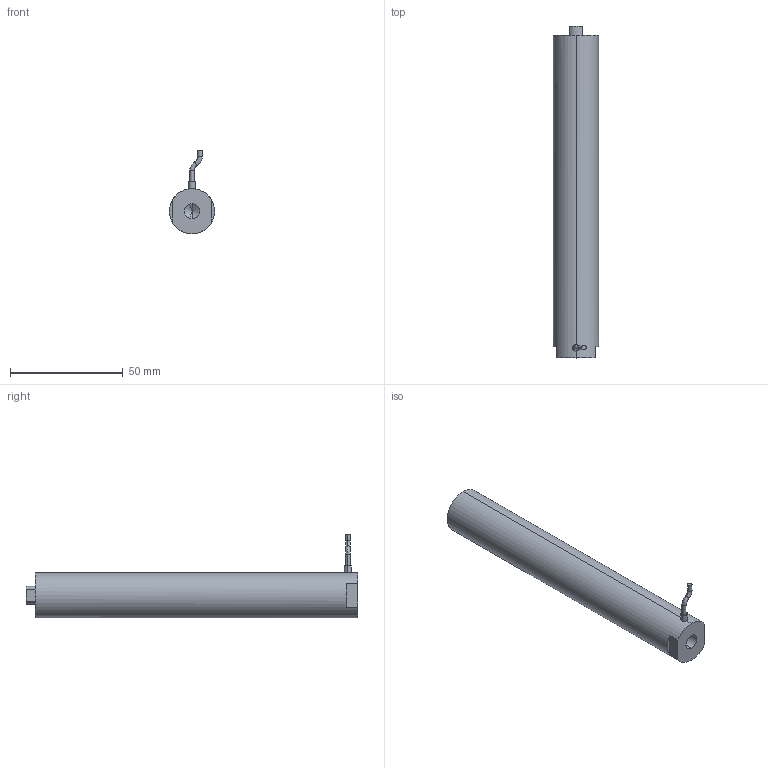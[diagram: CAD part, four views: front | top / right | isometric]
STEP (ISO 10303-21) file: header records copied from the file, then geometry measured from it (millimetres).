
FILE_DESCRIPTION (( 'STEP AP203' ), '1' );
FILE_NAME ('ﾄﾚﾂﾝﾎﾆﾊｽ140VS20.STEP', '2021-07-08T05:26:44', ( 'ﾎ｢ﾈ橆ﾃｻｧ' ), ( 'ﾎ｢ﾈ晥ｫﾋｾ' ), 'SwSTEP 2.0', 'SolidWorks 2016', '' );
FILE_SCHEMA (( 'CONFIG_CONTROL_DESIGN' ));
Products named in the file (1): 囀蹟恇宒140VS20
Bounding box: 20 x 147 x 37.06 mm (x, y, z)
Volume: 44535.6 mm3; surface area: 10169.2 mm2
Topology: 1 solids, 1 shells, 947 faces, 2564 edges, 1702 vertices
Faces by surface type: bspline 513, plane 318, cylinder 108, torus 4, cone 4
Entity records: 44910 total; most frequent: CARTESIAN_POINT 25640, ORIENTED_EDGE 5112, EDGE_CURVE 2556, DIRECTION 2007, VERTEX_POINT 1700, B_SPLINE_CURVE_WITH_KNOTS 1699, EDGE_LOOP 1036, ADVANCED_FACE 947
